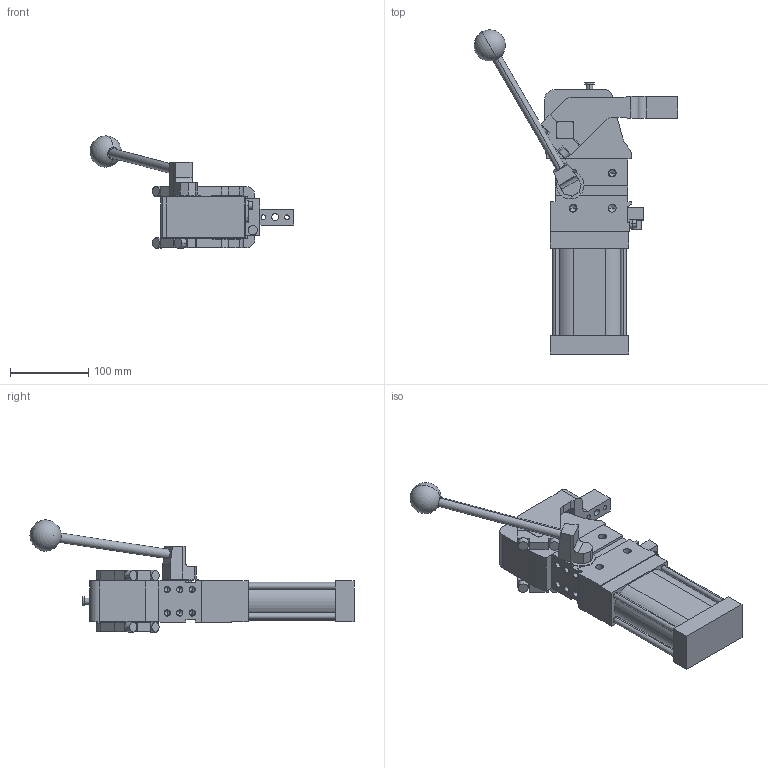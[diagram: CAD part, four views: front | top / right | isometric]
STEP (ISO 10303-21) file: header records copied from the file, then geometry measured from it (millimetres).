
FILE_DESCRIPTION (( 'STEP AP214' ), '1' );
FILE_NAME ('cplm63lav1csi1g_16.STEP', '2023-01-26T14:36:42', ( '' ), ( '' ), 'SwSTEP 2.0', 'SolidWorks 2022', '' );
FILE_SCHEMA (( 'AUTOMOTIVE_DESIGN' ));
Length unit declared in the file: millimetre
Products named in the file (5): cplm63lav1csi1g_16; meccanica_cplm_63; comando_manuale_cplm_63; blocchetto_VEP_0; leva_cx_offset_15_cpl63
Assembly tree (4 placements, depth 2):
  cplm63lav1csi1g_16
    meccanica_cplm_63
    blocchetto_VEP_0
    leva_cx_offset_15_cpl63
    comando_manuale_cplm_63
Bounding box: 260.57 x 414.56 x 143.5 mm (x, y, z)
Volume: 1858154.9 mm3; surface area: 205684.9 mm2
Topology: 4 solids, 4 shells, 430 faces, 1128 edges, 699 vertices
Faces by surface type: plane 217, cylinder 161, cone 50, sphere 2
Entity records: 14525 total; most frequent: DIRECTION 2307, CARTESIAN_POINT 2294, ORIENTED_EDGE 2154, EDGE_CURVE 1077, AXIS2_PLACEMENT_3D 799, LINE 709, VECTOR 709, VERTEX_POINT 696
